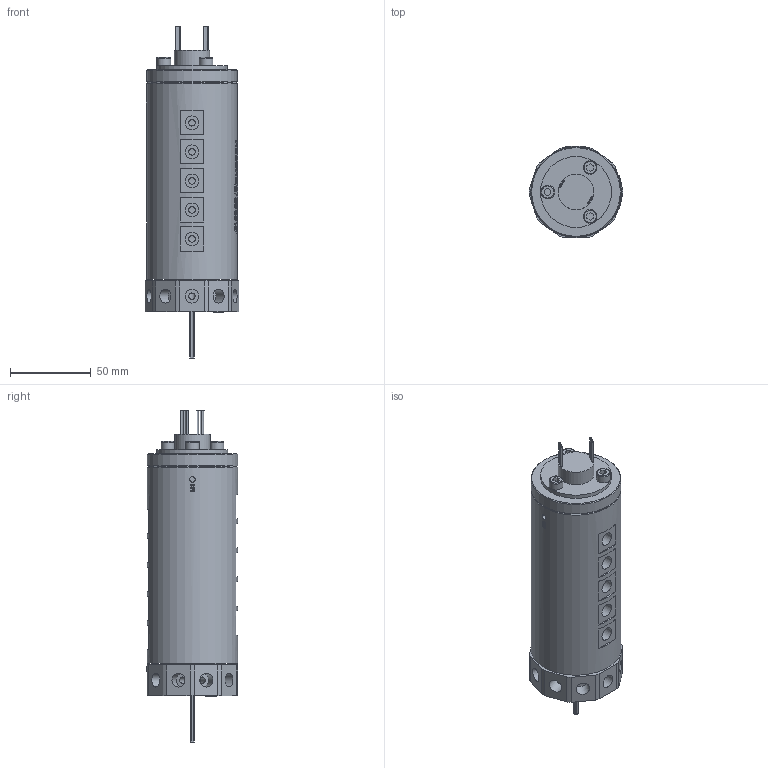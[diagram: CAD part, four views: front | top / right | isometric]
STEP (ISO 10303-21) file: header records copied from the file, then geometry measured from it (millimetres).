
FILE_DESCRIPTION(/* description */ (''),/* implementation_level */ '2;1');
FILE_NAME(/* name */ 'YQ1001-06M.stp',/* time_stamp */ '2025-02-15T15:33:45+08:00',/* author */ (''),/* organization */ (''),/* preprocessor_version */ 'ST-DEVELOPER v16.7',/* originating_system */ 'SIEMENS PLM Software NX 12.0',/* authorisation */ '');
FILE_SCHEMA (('AUTOMOTIVE_DESIGN { 1 0 10303 214 3 1 1 1 }'));
Products named in the file (1): HX0527348ECCpcj0
Bounding box: 57.99 x 56.5 x 205.8 mm (x, y, z)
Volume: 355724.9 mm3; surface area: 53971.5 mm2
Topology: 1 solids, 1 shells, 1350 faces, 3565 edges, 2402 vertices
Faces by surface type: extrusion 624, plane 540, cylinder 143, bspline 33, cone 7, torus 3
Full cylindrical faces by diameter (mm): 0.8 x16, 3.4 x6, 4 x30, 4.1 x10, 4.2 x10, 7.8 x1, 8 x1, 8.5 x23, 22 x1, 34 x1, 44 x1, 56 x2
Entity records: 49207 total; most frequent: CARTESIAN_POINT 20904, ORIENTED_EDGE 6724, DIRECTION 3484, EDGE_CURVE 3362, B_SPLINE_CURVE_WITH_KNOTS 2919, VERTEX_POINT 2325, EDGE_LOOP 1651, ADVANCED_FACE 1347
